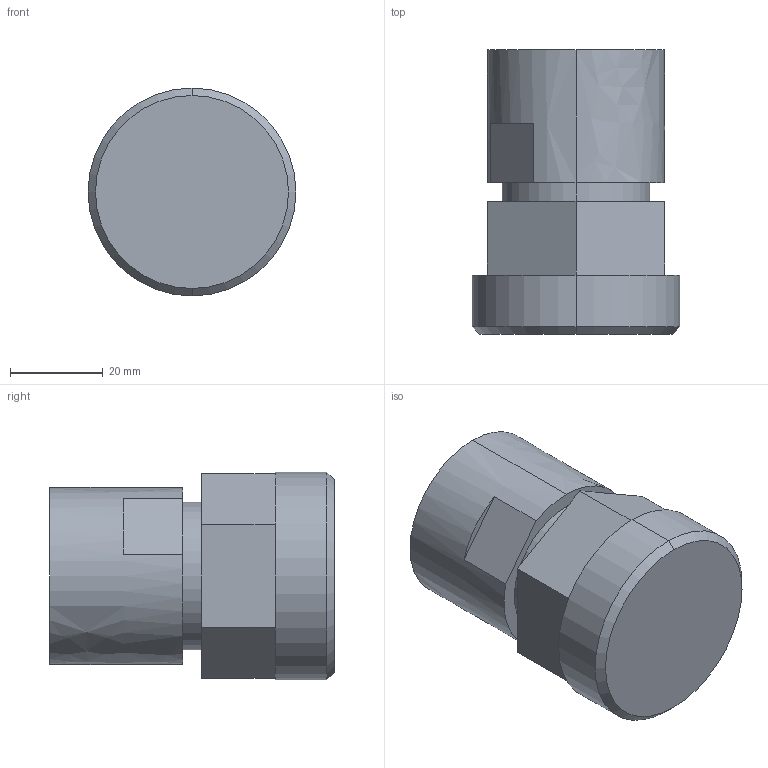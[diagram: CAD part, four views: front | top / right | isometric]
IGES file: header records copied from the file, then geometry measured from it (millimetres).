
Start section: SolidWorks IGES file using analytic representation for surfaces
Global section: file name: S:\Product Visuals\REVISED-60L-TOP-MOUNT-FITTINGS\IGS\fnpt\12-fnpt-with-top-mount-adapter.IGS; native system: SolidWorks 2012; preprocessor: SolidWorks 2012; author: rachel.dressel; date: 121127.111102; units: inch
Bounding box: 44.7 x 61.21 x 44.7 mm (x, y, z)
Volume: 68755.6 mm3; surface area: 12628.2 mm2
Topology: 1 solids, 1 shells, 26 faces, 58 edges, 38 vertices
Faces by surface type: plane 16, revolution 10
